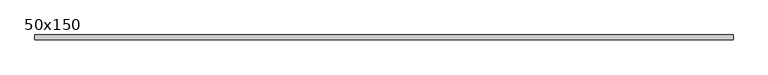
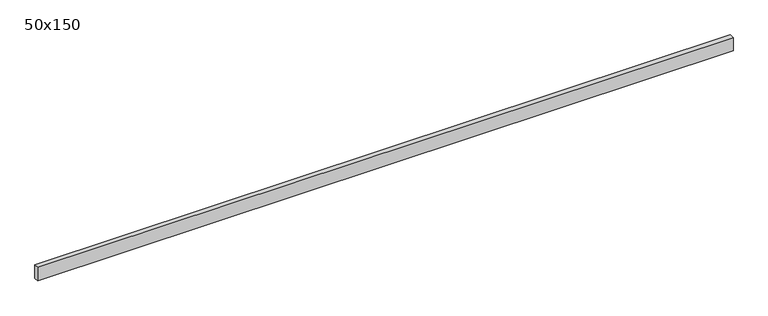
"""IFC4 building model written with IfcOpenShell, lengths in millimetres: beam geometry, Graded Timber : 50x150."""

from ifc_helpers import new_model, si_unit, frame, origin, place, context, project, spatial, polyline, outline, extrude, source, transform, mapped, element, save


def beam_50x150_62dd1690(model_context):
    return source(origin(), model_context, "Body", "SweptSolid", [
        extrude(outline(polyline([(2478.9471667, 25.0), (2478.9471667, -25.0), (-4893.7346898, -25.0), (-4893.7346898, 25.0), (2478.9471667, 25.0)])), frame((0.0, 0.0, -75.0), z_axis=(0.0, 0.0, 1.0), x_axis=(1.0, 0.0, 0.0)), (0.0, 0.0, 1.0), 150.0),
    ])


if __name__ == "__main__":
    model = new_model("IFC4")
    model_context = context("Model", 3, world=origin())
    ifc_project = project(units=[si_unit("LENGTHUNIT", "METRE", prefix="MILLI")], contexts=[model_context])
    site = spatial("IfcSite", under=ifc_project)
    building = spatial("IfcBuilding", under=site)
    placement = place(None, origin())
    beam_50x150_shape = beam_50x150_62dd1690(model_context)
    element("IfcBeam", 1, ObjectType="Graded Timber : 50x150", at=placement, inside=building, context=model_context, shape_type="MappedRepresentation", body=[
        mapped(beam_50x150_shape, transform((0.0, 0.0, 0.0), x_axis=(1.0, 0.0, 0.0), y_axis=(0.0, 1.0, 0.0), z_axis=(0.0, 0.0, 1.0))),
    ])
    save(model, "model.ifc")
